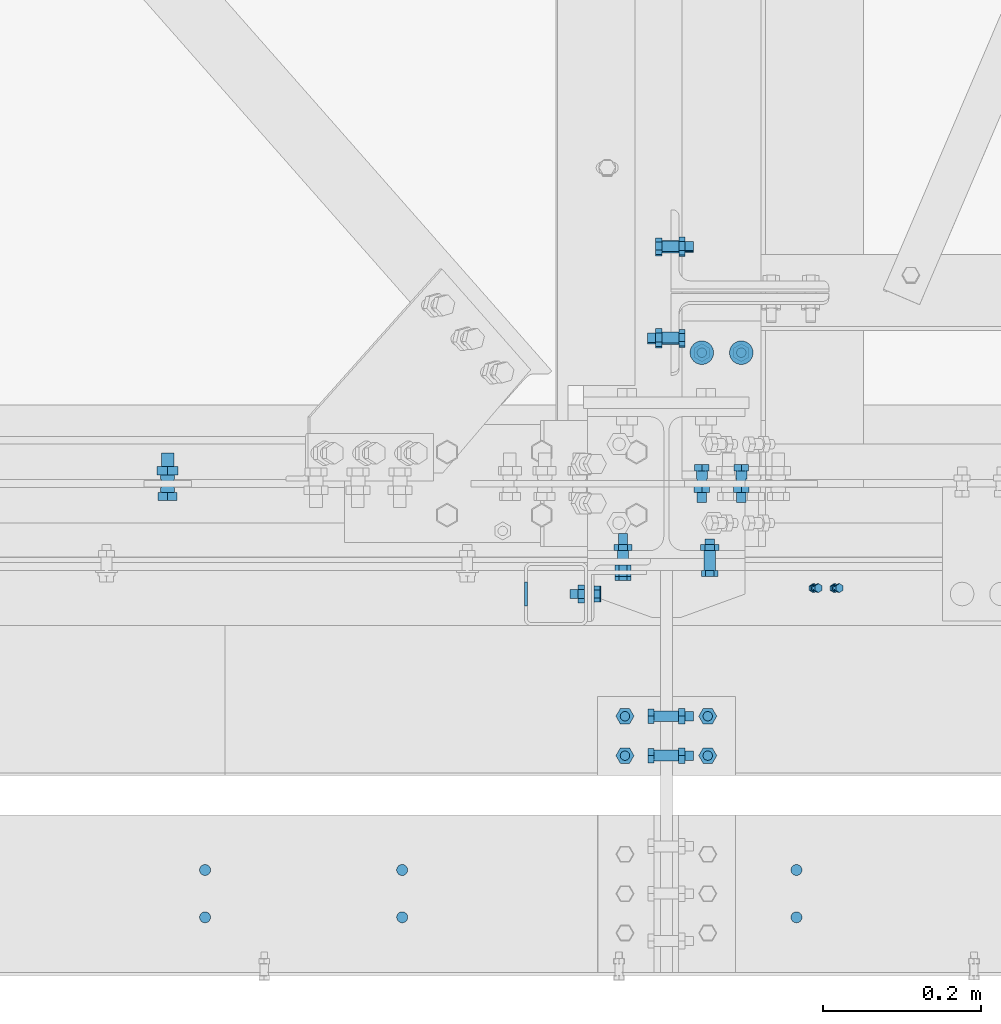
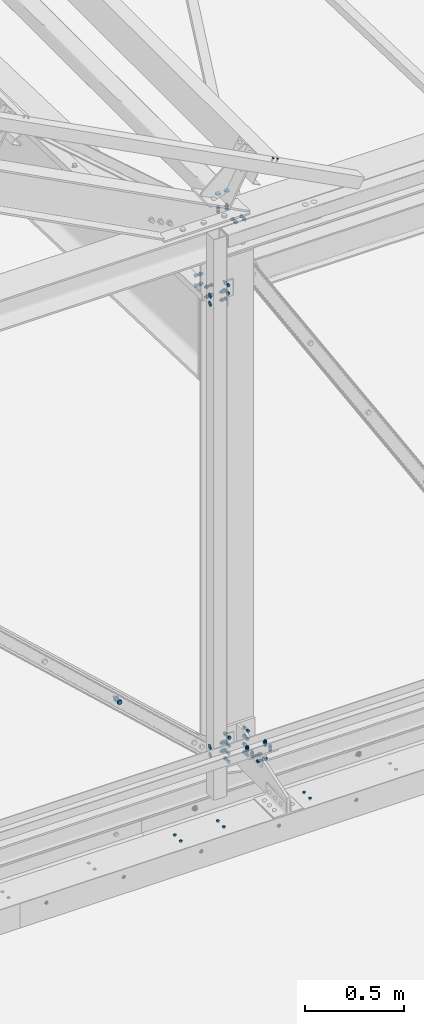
# One storey, part 257 of 362: 22 mechanical fasteners.
"""IFC2X3 building model written with IfcOpenShell, lengths in millimetres."""

from ifc_helpers import new_model, si_unit, frame, frame_2d, origin_with_axes, origin_2d_with_axis, place, context, subcontext, project, spatial, polyline, circle_curve, parameter, trimmed, segment, composite_curve, circle, outline, extrude, source, transform, mapped, material, type_object, element, save


model = new_model("IFC2X3")

# Units and contexts
model_context = context("Model", 3, precision=1e-05, world=origin_with_axes())
body_context = subcontext(model_context, "Body", "Model", "MODEL_VIEW")
ifc_project = project(units=[si_unit("LENGTHUNIT", "METRE", prefix="MILLI"), si_unit("AREAUNIT", "SQUARE_METRE"), si_unit("VOLUMEUNIT", "CUBIC_METRE"), si_unit("MASSUNIT", "GRAM", prefix="KILO"), si_unit("TIMEUNIT", "SECOND"), si_unit("PLANEANGLEUNIT", "RADIAN"), si_unit("SOLIDANGLEUNIT", "STERADIAN"), si_unit("THERMODYNAMICTEMPERATUREUNIT", "DEGREE_CELSIUS"), si_unit("LUMINOUSINTENSITYUNIT", "LUMEN")], contexts=[model_context])

# Site, building, storey
site_placement = place(None, origin_with_axes())
site = spatial("IfcSite", under=ifc_project, at=site_placement, Name="Undefined", CompositionType="ELEMENT")
building_placement = place(site_placement, origin_with_axes())
building = spatial("IfcBuilding", under=site, at=building_placement, Name="Undefined", CompositionType="ELEMENT")
storey_placement = place(building_placement, origin_with_axes())
storey = spatial("IfcBuildingStorey", under=building, at=storey_placement, Name="Undefined", CompositionType="ELEMENT", Elevation=0.0)

# Mechanical fasteners
ifc_material_1 = material(Name="8.8-SB-ZINGUE")
mechanical_fastener_type = type_object("IfcMechanicalFastenerType", Name="Bolt assembly")
shared_shape_1 = source(origin_with_axes(), body_context, "Body", "SweptSolid", [
    extrude(circle(Radius=7.0, at=origin_2d_with_axis()), frame((0.0, -8.5, 0.0), z_axis=(0.0, 1.0, 0.0), x_axis=(1.0, 0.0, 0.0)), (0.0, 0.0, 1.0), 8.6),
])
for number, where, z_axis, x_axis, name in (
    (1, (19714.9989211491, -490.0, 5229.99824538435), (-1.0, 0.0, 0.0), (0.0, -1.0, 0.0), "Bolt assembly"),
    (2, (19214.9989211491, -490.0, 5229.99824538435), (-1.0, 0.0, 0.0), (0.0, -1.0, 0.0), "Bolt assembly"),
    (3, (18964.9989211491, -490.0, 5229.99824538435), (-1.0, 0.0, 0.0), (0.0, -1.0, 0.0), "Bolt assembly"),
):
    element("IfcMechanicalFastener", number, at=place(storey_placement, frame(where, z_axis=z_axis, x_axis=x_axis)), inside=storey, type_object=mechanical_fastener_type, material=ifc_material_1, Name=name, NominalDiameter=12.0, NominalLength=8.5, context=body_context, shape_type="MappedRepresentation", body=[
        mapped(shared_shape_1, transform((0.0, 0.0, 0.0))),
        mapped(shared_shape_1, transform((60.0, 0.0, 0.0))),
    ])
shared_shape_2 = source(origin_with_axes(), body_context, "Body", "SweptSolid", [
    extrude(circle(Radius=7.0, at=origin_2d_with_axis()), frame((0.0, -7.5, 0.0), z_axis=(0.0, 1.0, 0.0), x_axis=(1.0, 0.0, 0.0)), (0.0, 0.0, 1.0), 15.0),
    extrude(circle(Radius=7.0, at=origin_2d_with_axis()), frame((0.0, -15.4, 0.0), z_axis=(0.0, 1.0, 0.0), x_axis=(1.0, 0.0, 0.0)), (0.0, 0.0, 1.0), 8.0),
    extrude(circle(Radius=7.0, at=origin_2d_with_axis()), frame((0.0, 7.39216762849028, 0.0), z_axis=(0.0, 1.0, 0.0), x_axis=(1.0, 0.0, 0.0)), (0.0, 0.0, 1.0), 8.1),
    extrude(outline(polyline([(10.39230484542, 0.0), (5.19615242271, 9.00000000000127), (-5.19615242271, 9.00000000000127), (-10.39230484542, 0.0), (-5.19615242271, -9.00000000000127), (5.19615242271, -9.00000000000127), (10.39230484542, 0.0)])), frame((0.0, -23.42, 0.0), z_axis=(0.0, 1.0, 0.0), x_axis=(1.0, 0.0, 0.0)), (0.0, 0.0, 1.0), 7.92),
    extrude(circle(Radius=6.0, at=origin_2d_with_axis()), frame((0.0, -15.5, 0.0), z_axis=(0.0, 1.0, 0.0), x_axis=(1.0, 0.0, 0.0)), (0.0, 0.0, 1.0), 50.0),
    extrude(outline(polyline([(11.5008173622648, 0.0), (5.7504086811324, 9.96000000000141), (-5.7504086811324, 9.96000000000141), (-11.5008173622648, 0.0), (-5.7504086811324, -9.96000000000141), (5.7504086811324, -9.96000000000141), (11.5008173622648, 0.0)])), frame((0.0, 15.4921676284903, 0.0), z_axis=(0.0, 1.0, 0.0), x_axis=(1.0, 0.0, 0.0)), (0.0, 0.0, 1.0), 7.92),
])
mechanical_fastener_1_placement = place(storey_placement, frame((19550.0, -320.0, 5394.99824538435), z_axis=(0.0, 1.0, 0.0), x_axis=(0.0, 0.0, 1.0)))
element("IfcMechanicalFastener", 4, at=mechanical_fastener_1_placement, inside=storey, type_object=mechanical_fastener_type, material=ifc_material_1, Name="Bolt assembly", NominalDiameter=12.0, NominalLength=50.0, context=body_context, shape_type="MappedRepresentation", body=[
    mapped(shared_shape_2, transform((0.0, 0.0, -25.0))),
    mapped(shared_shape_2, transform((0.0, 0.0, 25.0))),
])
shared_shape_3 = source(origin_with_axes(), body_context, "Body", "SweptSolid", [
    extrude(circle(Radius=7.0, at=origin_2d_with_axis()), frame((0.0, -0.100011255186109, 0.0), z_axis=(0.0, 1.0, 0.0), x_axis=(1.0, 0.0, 0.0)), (0.0, 0.0, 1.0), 4.1),
    extrude(circle(Radius=7.0, at=origin_2d_with_axis()), frame((0.0, -7.9, 0.0), z_axis=(0.0, 1.0, 0.0), x_axis=(1.0, 0.0, 0.0)), (0.0, 0.0, 1.0), 8.0),
    extrude(outline(polyline([(10.39230484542, 0.0), (5.19615242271, 9.00000000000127), (-5.19615242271, 9.00000000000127), (-10.39230484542, 0.0), (-5.19615242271, -9.00000000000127), (5.19615242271, -9.00000000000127), (10.39230484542, 0.0)])), frame((0.0, -15.92, 0.0), z_axis=(0.0, 1.0, 0.0), x_axis=(1.0, 0.0, 0.0)), (0.0, 0.0, 1.0), 7.92),
    extrude(circle(Radius=6.0, at=origin_2d_with_axis()), frame((0.0, -8.0, 0.0), z_axis=(0.0, 1.0, 0.0), x_axis=(1.0, 0.0, 0.0)), (0.0, 0.0, 1.0), 30.0),
    extrude(outline(polyline([(11.5008173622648, 0.0), (5.7504086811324, 9.96000000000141), (-5.7504086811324, 9.96000000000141), (-11.5008173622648, 0.0), (-5.7504086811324, -9.96000000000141), (5.7504086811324, -9.96000000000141), (11.5008173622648, 0.0)])), frame((0.0, 4.00000005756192, 0.0), z_axis=(0.0, 1.0, 0.0), x_axis=(1.0, 0.0, 0.0)), (0.0, 0.0, 1.0), 7.92),
])
for number, where, z_axis, x_axis, name in (
    (5, (19602.4921676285, -320.0, 5449.99824532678), (0.0, 1.0, 0.0), (-1.0, 0.0, 0.0), "Bolt assembly"),
    (6, (19497.5, -320.0, 5449.99824532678), (0.0, -1.0, 0.0), (1.0, 0.0, 0.0), "Bolt assembly"),
    (7, (19449.9999999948, -139.999999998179, 8160.00066229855), (0.0, 0.0, 1.0), (0.0, 1.0, 0.0), "Bolt assembly"),
):
    element("IfcMechanicalFastener", number, at=place(storey_placement, frame(where, z_axis=z_axis, x_axis=x_axis)), inside=storey, type_object=mechanical_fastener_type, material=ifc_material_1, Name=name, NominalDiameter=12.0, NominalLength=30.0, context=body_context, shape_type="MappedRepresentation", body=[
        mapped(shared_shape_3, transform((0.0, 0.0, -25.0))),
        mapped(shared_shape_3, transform((0.0, 0.0, 25.0))),
    ])
shared_shape_4 = source(origin_with_axes(), body_context, "Body", "SweptSolid", [
    extrude(circle(Radius=7.0, at=origin_2d_with_axis()), frame((0.0, 4.89855588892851, 0.0), z_axis=(0.0, 1.0, 0.0), x_axis=(1.0, 0.0, 0.0)), (0.0, 0.0, 1.0), 10.1),
    extrude(circle(Radius=7.0, at=origin_2d_with_axis()), frame((0.0, -9.90144411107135, 0.0), z_axis=(0.0, 1.0, 0.0), x_axis=(1.0, 0.0, 0.0)), (0.0, 0.0, 1.0), 15.0),
    extrude(outline(polyline([(10.39230484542, 0.0), (5.19615242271, 9.00000000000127), (-5.19615242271, 9.00000000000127), (-10.39230484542, 0.0), (-5.19615242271, -9.00000000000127), (5.19615242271, -9.00000000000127), (10.39230484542, 0.0)])), frame((0.0, -17.9214441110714, 0.0), z_axis=(0.0, 1.0, 0.0), x_axis=(1.0, 0.0, 0.0)), (0.0, 0.0, 1.0), 7.92),
    extrude(circle(Radius=6.0, at=origin_2d_with_axis()), frame((0.0, -10.0014441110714, 0.0), z_axis=(0.0, 1.0, 0.0), x_axis=(1.0, 0.0, 0.0)), (0.0, 0.0, 1.0), 40.0),
    extrude(outline(polyline([(11.5008173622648, 0.0), (5.7504086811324, 9.96000000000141), (-5.7504086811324, 9.96000000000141), (-11.5008173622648, 0.0), (-5.7504086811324, -9.96000000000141), (5.7504086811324, -9.96000000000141), (11.5008173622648, 0.0)])), frame((0.0, 14.9985558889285, 0.0), z_axis=(0.0, 1.0, 0.0), x_axis=(1.0, 0.0, 0.0)), (0.0, 0.0, 1.0), 7.92),
])
mechanical_fastener_2_placement = place(storey_placement, frame((19604.9999023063, -99.9985558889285, 5290.00066228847), z_axis=(0.0, 0.0, 1.0), x_axis=(1.0, 0.0, 0.0)))
element("IfcMechanicalFastener", 8, at=mechanical_fastener_2_placement, inside=storey, type_object=mechanical_fastener_type, material=ifc_material_1, Name="Bolt assembly", NominalDiameter=12.0, NominalLength=40.0, context=body_context, shape_type="MappedRepresentation", body=[
    mapped(shared_shape_4, transform((0.0, 0.0, 25.0))),
    mapped(shared_shape_4, transform((0.0, 0.0, -25.0))),
])
mechanical_fastener_3_placement = place(storey_placement, frame((19495.0012970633, -99.9985558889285, 5290.00066228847), z_axis=(0.0, 0.0, -1.0), x_axis=(-1.0, 0.0, 0.0)))
element("IfcMechanicalFastener", 9, at=mechanical_fastener_3_placement, inside=storey, type_object=mechanical_fastener_type, material=ifc_material_1, Name="Bolt assembly", NominalDiameter=12.0, NominalLength=40.0, context=body_context, shape_type="MappedRepresentation", body=[
    mapped(shared_shape_4, transform((0.0, 0.0, -25.0))),
    mapped(shared_shape_4, transform((0.0, 0.0, 25.0))),
])
shared_shape_5 = source(origin_with_axes(), body_context, "Body", "SweptSolid", [
    extrude(circle(Radius=7.0, at=origin_2d_with_axis()), frame((0.0, -0.100011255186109, 0.0), z_axis=(0.0, 1.0, 0.0), x_axis=(1.0, 0.0, 0.0)), (0.0, 0.0, 1.0), 10.1),
    extrude(circle(Radius=7.0, at=origin_2d_with_axis()), frame((0.0, -14.899999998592, 0.0), z_axis=(0.0, 1.0, 0.0), x_axis=(1.0, 0.0, 0.0)), (0.0, 0.0, 1.0), 15.0),
    extrude(outline(polyline([(10.39230484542, 0.0), (5.19615242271, 9.00000000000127), (-5.19615242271, 9.00000000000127), (-10.39230484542, 0.0), (-5.19615242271, -9.00000000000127), (5.19615242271, -9.00000000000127), (10.39230484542, 0.0)])), frame((0.0, -22.919999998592, 0.0), z_axis=(0.0, 1.0, 0.0), x_axis=(1.0, 0.0, 0.0)), (0.0, 0.0, 1.0), 7.92),
    extrude(circle(Radius=6.0, at=origin_2d_with_axis()), frame((0.0, -14.999999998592, 0.0), z_axis=(0.0, 1.0, 0.0), x_axis=(1.0, 0.0, 0.0)), (0.0, 0.0, 1.0), 40.0),
    extrude(outline(polyline([(11.5008173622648, 0.0), (5.7504086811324, 9.96000000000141), (-5.7504086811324, 9.96000000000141), (-11.5008173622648, 0.0), (-5.7504086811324, -9.96000000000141), (5.7504086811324, -9.96000000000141), (11.5008173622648, 0.0)])), frame((0.0, 10.0000000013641, 0.0), z_axis=(0.0, 1.0, 0.0), x_axis=(1.0, 0.0, 0.0)), (0.0, 0.0, 1.0), 7.92),
])
mechanical_fastener_4_placement = place(storey_placement, frame((19604.9999023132, -95.0000000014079, 5390.00066228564), z_axis=(0.0, 0.0, 1.0), x_axis=(1.0, 0.0, 0.0)))
element("IfcMechanicalFastener", 10, at=mechanical_fastener_4_placement, inside=storey, type_object=mechanical_fastener_type, material=ifc_material_1, Name="Bolt assembly", NominalDiameter=12.0, NominalLength=40.0, context=body_context, shape_type="MappedRepresentation", body=[
    mapped(shared_shape_5, transform((0.0, 0.0, 25.0))),
    mapped(shared_shape_5, transform((0.0, 0.0, -25.0))),
])
shared_shape_6 = source(origin_with_axes(), body_context, "Body", "SweptSolid", [
    extrude(circle(Radius=7.0, at=origin_2d_with_axis()), frame((0.0, -0.100011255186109, 0.0), z_axis=(0.0, 1.0, 0.0), x_axis=(1.0, 0.0, 0.0)), (0.0, 0.0, 1.0), 10.1),
    extrude(circle(Radius=7.0, at=origin_2d_with_axis()), frame((0.0, -14.999999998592, 0.0), z_axis=(0.0, 1.0, 0.0), x_axis=(1.0, 0.0, 0.0)), (0.0, 0.0, 1.0), 15.0),
    extrude(circle(Radius=7.0, at=origin_2d_with_axis()), frame((0.0, -19.900541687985, 0.0), z_axis=(0.0, 1.0, 0.0), x_axis=(1.0, 0.0, 0.0)), (0.0, 0.0, 1.0), 5.0),
    extrude(outline(polyline([(10.39230484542, 0.0), (5.19615242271, 9.00000000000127), (-5.19615242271, 9.00000000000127), (-10.39230484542, 0.0), (-5.19615242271, -9.00000000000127), (5.19615242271, -9.00000000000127), (10.39230484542, 0.0)])), frame((0.0, -27.920541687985, 0.0), z_axis=(0.0, 1.0, 0.0), x_axis=(1.0, 0.0, 0.0)), (0.0, 0.0, 1.0), 7.92),
    extrude(circle(Radius=6.0, at=origin_2d_with_axis()), frame((0.0, -20.000541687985, 0.0), z_axis=(0.0, 1.0, 0.0), x_axis=(1.0, 0.0, 0.0)), (0.0, 0.0, 1.0), 50.0),
    extrude(outline(polyline([(11.5008173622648, 0.0), (5.7504086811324, 9.96000000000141), (-5.7504086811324, 9.96000000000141), (-11.5008173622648, 0.0), (-5.7504086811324, -9.96000000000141), (5.7504086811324, -9.96000000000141), (11.5008173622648, 0.0)])), frame((0.0, 10.0000000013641, 0.0), z_axis=(0.0, 1.0, 0.0), x_axis=(1.0, 0.0, 0.0)), (0.0, 0.0, 1.0), 7.92),
])
mechanical_fastener_5_placement = place(storey_placement, frame((19495.0012970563, -95.0000000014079, 5390.00066228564), z_axis=(0.0, 0.0, -1.0), x_axis=(-1.0, 0.0, 0.0)))
element("IfcMechanicalFastener", 11, at=mechanical_fastener_5_placement, inside=storey, type_object=mechanical_fastener_type, material=ifc_material_1, Name="Bolt assembly", NominalDiameter=12.0, NominalLength=50.0, context=body_context, shape_type="MappedRepresentation", body=[
    mapped(shared_shape_6, transform((0.0, 0.0, -25.0))),
    mapped(shared_shape_6, transform((0.0, 0.0, 25.0))),
])
shared_shape_7 = source(origin_with_axes(), body_context, "Body", "SweptSolid", [
    extrude(circle(Radius=7.0, at=origin_2d_with_axis()), frame((0.0, -0.0987029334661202, 0.0), z_axis=(0.0, 1.0, 0.0), x_axis=(1.0, 0.0, 0.0)), (0.0, 0.0, 1.0), 4.1),
    extrude(outline(composite_curve([segment(polyline([(-5.5, 7.0), (5.5, 7.0)]), True, "CONTINUOUS"), segment(trimmed(circle_curve(frame_2d((5.5, 0.0), x_axis=(0.0, 1.0)), 7.0), [parameter(0.0)], [parameter(3.14159265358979)], False, "PARAMETER"), True, "CONTINUOUS"), segment(polyline([(5.5, -7.0), (-5.5, -7.0)]), True, "CONTINUOUS"), segment(trimmed(circle_curve(frame_2d((-5.5, 0.0), x_axis=(0.0, -1.0)), 7.0), [parameter(0.0)], [parameter(3.14159265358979)], False, "PARAMETER"), True, "DISCONTINUOUS")], self_intersect=False)), frame((0.0, -4.90000000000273, 0.0), z_axis=(0.0, 1.0, 0.0), x_axis=(1.0, 0.0, 0.0)), (0.0, 0.0, 1.0), 5.0),
    extrude(outline(polyline([(10.39230484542, 0.0), (5.19615242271, 9.00000000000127), (-5.19615242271, 9.00000000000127), (-10.39230484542, 0.0), (-5.19615242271, -9.00000000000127), (5.19615242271, -9.00000000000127), (10.39230484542, 0.0)])), frame((0.0, -16.8799999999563, 0.0), z_axis=(0.0, 1.0, 0.0), x_axis=(1.0, 0.0, 0.0)), (0.0, 0.0, 1.0), 7.92),
    extrude(circle(Radius=6.0, at=origin_2d_with_axis()), frame((0.0, -8.95999999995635, 0.0), z_axis=(0.0, 1.0, 0.0), x_axis=(1.0, 0.0, 0.0)), (0.0, 0.0, 1.0), 30.0),
    extrude(circle(Radius=10.8, at=origin_2d_with_axis()), frame((0.0, -8.95999999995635, 0.0), z_axis=(0.0, 1.0, 0.0), x_axis=(1.0, 0.0, 0.0)), (0.0, 0.0, 1.0), 3.96),
    extrude(outline(polyline([(11.5008173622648, 0.0), (5.7504086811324, 9.96000000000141), (-5.7504086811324, 9.96000000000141), (-11.5008173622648, 0.0), (-5.7504086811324, -9.96000000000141), (5.7504086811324, -9.96000000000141), (11.5008173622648, 0.0)])), frame((0.0, 4.00129706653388, 0.0), z_axis=(0.0, 1.0, 0.0), x_axis=(1.0, 0.0, 0.0)), (0.0, 0.0, 1.0), 7.92),
])
mechanical_fastener_6_placement = place(storey_placement, frame((19450.0012970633, -140.000000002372, 5390.00066228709), z_axis=(0.0, 0.0, 1.0), x_axis=(0.0, 1.0, 0.0)))
element("IfcMechanicalFastener", 12, at=mechanical_fastener_6_placement, inside=storey, type_object=mechanical_fastener_type, material=ifc_material_1, Name="Bolt assembly", NominalDiameter=12.0, NominalLength=30.0, context=body_context, shape_type="MappedRepresentation", body=[
    mapped(shared_shape_7, transform((0.0, 0.0, -25.0))),
    mapped(shared_shape_7, transform((0.0, 0.0, 25.0))),
])
ifc_material_2 = material(Name="6.8")
shared_shape_8 = source(origin_with_axes(), body_context, "Body", "SweptSolid", [
    extrude(circle(Radius=15.0, at=origin_2d_with_axis()), frame((0.0, 0.0, 0.0), z_axis=(0.0, 1.0, 0.0), x_axis=(1.0, 0.0, 0.0)), (0.0, 0.0, 1.0), 4.1),
])
mechanical_fastener_7_placement = place(storey_placement, frame((19619.9999986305, 166.0, 8550.0), z_axis=(1.0, 0.0, 0.0), x_axis=(0.0, -1.0, 0.0)))
element("IfcMechanicalFastener", 13, at=mechanical_fastener_7_placement, inside=storey, type_object=mechanical_fastener_type, material=ifc_material_2, Name="Bolt assembly", NominalDiameter=30.0, NominalLength=4.0, context=body_context, shape_type="MappedRepresentation", body=[
    mapped(shared_shape_8, transform((0.0, 0.0, -25.0))),
    mapped(shared_shape_8, transform((0.0, 0.0, 25.0))),
])
shared_shape_9 = source(origin_with_axes(), body_context, "Body", "SweptSolid", [
    extrude(circle(Radius=15.0, at=origin_2d_with_axis()), frame((0.0, -3.99999923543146, 0.0), z_axis=(0.0, 1.0, 0.0), x_axis=(1.0, 0.0, 0.0)), (0.0, 0.0, 1.0), 4.1),
])
for number, where, z_axis, x_axis, name in (
    (14, (19369.9999999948, -139.999999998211, 8160.0006622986), (0.0, 0.0, 1.0), (0.0, 1.0, 0.0), "Bolt assembly"),
    (15, (19369.9999999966, -139.999999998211, 5390.0006622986), (0.0, 0.0, 1.0), (0.0, 1.0, 0.0), "Bolt assembly"),
):
    element("IfcMechanicalFastener", number, at=place(storey_placement, frame(where, z_axis=z_axis, x_axis=x_axis)), inside=storey, type_object=mechanical_fastener_type, material=ifc_material_2, Name=name, NominalDiameter=30.0, NominalLength=4.0, context=body_context, shape_type="MappedRepresentation", body=[
        mapped(shared_shape_9, transform((0.0, 0.0, -25.0))),
        mapped(shared_shape_9, transform((0.0, 0.0, 25.0))),
    ])
shared_shape_10 = source(origin_with_axes(), body_context, "Body", "SweptSolid", [
    extrude(circle(Radius=7.0, at=origin_2d_with_axis()), frame((0.0, -0.100011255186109, 0.0), z_axis=(0.0, 1.0, 0.0), x_axis=(1.0, 0.0, 0.0)), (0.0, 0.0, 1.0), 10.1),
    extrude(circle(Radius=7.0, at=origin_2d_with_axis()), frame((0.0, -7.9, 0.0), z_axis=(0.0, 1.0, 0.0), x_axis=(1.0, 0.0, 0.0)), (0.0, 0.0, 1.0), 8.0),
    extrude(outline(polyline([(10.39230484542, 0.0), (5.19615242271, 9.00000000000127), (-5.19615242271, 9.00000000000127), (-10.39230484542, 0.0), (-5.19615242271, -9.00000000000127), (5.19615242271, -9.00000000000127), (10.39230484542, 0.0)])), frame((0.0, -15.92, 0.0), z_axis=(0.0, 1.0, 0.0), x_axis=(1.0, 0.0, 0.0)), (0.0, 0.0, 1.0), 7.92),
    extrude(circle(Radius=6.0, at=origin_2d_with_axis()), frame((0.0, -8.0, 0.0), z_axis=(0.0, 1.0, 0.0), x_axis=(1.0, 0.0, 0.0)), (0.0, 0.0, 1.0), 40.0),
    extrude(outline(polyline([(11.5008173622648, 0.0), (5.7504086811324, 9.96000000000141), (-5.7504086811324, 9.96000000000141), (-11.5008173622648, 0.0), (-5.7504086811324, -9.96000000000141), (5.7504086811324, -9.96000000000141), (11.5008173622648, 0.0)])), frame((0.0, 10.0000000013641, 0.0), z_axis=(0.0, 1.0, 0.0), x_axis=(1.0, 0.0, 0.0)), (0.0, 0.0, 1.0), 7.92),
])
mechanical_fastener_8_placement = place(storey_placement, frame((19494.9999999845, -94.9999999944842, 8160.00066229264), z_axis=(0.0, 0.0, -1.0), x_axis=(-1.0, 0.0, 0.0)))
element("IfcMechanicalFastener", 16, at=mechanical_fastener_8_placement, inside=storey, type_object=mechanical_fastener_type, material=ifc_material_1, Name="Bolt assembly", NominalDiameter=12.0, NominalLength=40.0, context=body_context, shape_type="MappedRepresentation", body=[
    mapped(shared_shape_10, transform((0.0, 0.0, -25.0))),
    mapped(shared_shape_10, transform((0.0, 0.0, 25.0))),
])
shared_shape_11 = source(origin_with_axes(), body_context, "Body", "SweptSolid", [
    extrude(circle(Radius=9.0, at=origin_2d_with_axis()), frame((0.0, -10.9000000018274, 0.0), z_axis=(0.0, 1.0, 0.0), x_axis=(1.0, 0.0, 0.0)), (0.0, 0.0, 1.0), 6.0),
    extrude(circle(Radius=9.0, at=origin_2d_with_axis()), frame((0.0, 4.9000000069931, 0.0), z_axis=(0.0, 1.0, 0.0), x_axis=(1.0, 0.0, 0.0)), (0.0, 0.0, 1.0), 6.1),
    extrude(circle(Radius=9.0, at=origin_2d_with_axis()), frame((0.0, -3.99999923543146, 0.0), z_axis=(0.0, 1.0, 0.0), x_axis=(1.0, 0.0, 0.0)), (0.0, 0.0, 1.0), 8.0),
    extrude(outline(polyline([(13.85640646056, 0.0), (6.92820323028, 12.0000000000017), (-6.92820323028, 12.0000000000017), (-13.85640646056, 0.0), (-6.92820323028, -12.0000000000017), (6.92820323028, -12.0000000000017), (13.85640646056, 0.0)])), frame((0.0, -21.5600000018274, 0.0), z_axis=(0.0, 1.0, 0.0), x_axis=(1.0, 0.0, 0.0)), (0.0, 0.0, 1.0), 10.56),
    extrude(circle(Radius=8.0, at=origin_2d_with_axis()), frame((0.0, -11.0000000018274, 0.0), z_axis=(0.0, 1.0, 0.0), x_axis=(1.0, 0.0, 0.0)), (0.0, 0.0, 1.0), 50.0),
    extrude(outline(polyline([(15.3344231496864, 0.0), (7.6672115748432, 13.2800000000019), (-7.6672115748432, 13.2800000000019), (-15.3344231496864, 0.0), (-7.6672115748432, -13.2800000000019), (7.6672115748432, -13.2800000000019), (15.3344231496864, 0.0)])), frame((0.0, 11.0000000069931, 0.0), z_axis=(0.0, 1.0, 0.0), x_axis=(1.0, 0.0, 0.0)), (0.0, 0.0, 1.0), 10.56),
])
mechanical_fastener_9_placement = place(storey_placement, frame((18917.5577549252, 0.0, 5773.65162689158), z_axis=(1.0, 0.0, 0.0), x_axis=(0.0, 0.0, -1.0)))
element("IfcMechanicalFastener", 17, at=mechanical_fastener_9_placement, inside=storey, type_object=mechanical_fastener_type, material=ifc_material_1, Name="Bolt assembly", NominalDiameter=16.0, NominalLength=50.0, context=body_context, shape_type="MappedRepresentation", body=[
    mapped(shared_shape_11, transform((0.0, 0.0, 0.0))),
])
shared_shape_12 = source(origin_with_axes(), body_context, "Body", "SweptSolid", [
    extrude(circle(Radius=4.0, at=origin_2d_with_axis()), frame((0.0, 0.0, 0.0), z_axis=(0.0, 1.0, 0.0), x_axis=(1.0, 0.0, 0.0)), (0.0, 0.0, 1.0), 7.1),
    extrude(outline(polyline([(5.7735026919, 0.0), (2.88675134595, 5.00000000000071), (-2.88675134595, 5.00000000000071), (-5.7735026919, 0.0), (-2.88675134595, -5.00000000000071), (2.88675134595, -5.00000000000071), (5.7735026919, 0.0)])), frame((0.0, -3.99999923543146, 0.0), z_axis=(0.0, 1.0, 0.0), x_axis=(1.0, 0.0, 0.0)), (0.0, 0.0, 1.0), 4.0),
    extrude(circle(Radius=3.0, at=origin_2d_with_axis()), frame((0.0, 0.0, 0.0), z_axis=(0.0, 1.0, 0.0), x_axis=(1.0, 0.0, 0.0)), (0.0, 0.0, 1.0), 16.0),
    extrude(outline(polyline([(5.7735026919, 0.0), (2.88675134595, 5.00000000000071), (-2.88675134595, 5.00000000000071), (-5.7735026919, 0.0), (-2.88675134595, -5.00000000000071), (2.88675134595, -5.00000000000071), (5.7735026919, 0.0)])), frame((0.0, 7.0, 0.0), z_axis=(0.0, 1.0, 0.0), x_axis=(1.0, 0.0, 0.0)), (0.0, 0.0, 1.0), 5.2),
])
mechanical_fastener_10_placement = place(storey_placement, frame((19754.5101943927, -132.499920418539, 8886.11687705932), z_axis=(-0.886082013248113, 9.38091927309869e-07, 0.463528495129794), x_axis=(0.0, 1.0, 0.0)))
element("IfcMechanicalFastener", 18, at=mechanical_fastener_10_placement, inside=storey, type_object=mechanical_fastener_type, material=ifc_material_2, Name="Bolt assembly", NominalDiameter=6.0, NominalLength=16.0, context=body_context, shape_type="MappedRepresentation", body=[
    mapped(shared_shape_12, transform((0.0, 0.0, -15.0))),
    mapped(shared_shape_12, transform((0.0, -3.63797880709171e-12, 15.0000000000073))),
])
shared_shape_13 = source(origin_with_axes(), body_context, "Body", "SweptSolid", [
    extrude(circle(Radius=7.0, at=origin_2d_with_axis()), frame((0.0, 2.65, 0.0), z_axis=(0.0, 1.0, 0.0), x_axis=(1.0, 0.0, 0.0)), (0.0, 0.0, 1.0), 6.6),
    extrude(circle(Radius=7.0, at=origin_2d_with_axis()), frame((0.0, -9.9, 0.0), z_axis=(0.0, 1.0, 0.0), x_axis=(1.0, 0.0, 0.0)), (0.0, 0.0, 1.0), 10.0),
    extrude(outline(polyline([(10.39230484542, 0.0), (5.19615242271, 9.00000000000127), (-5.19615242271, 9.00000000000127), (-10.39230484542, 0.0), (-5.19615242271, -9.00000000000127), (5.19615242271, -9.00000000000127), (10.39230484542, 0.0)])), frame((0.0, -17.92, 0.0), z_axis=(0.0, 1.0, 0.0), x_axis=(1.0, 0.0, 0.0)), (0.0, 0.0, 1.0), 7.92),
    extrude(circle(Radius=6.0, at=origin_2d_with_axis()), frame((0.0, -10.0000010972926, 0.0), z_axis=(0.0, 1.0, 0.0), x_axis=(1.0, 0.0, 0.0)), (0.0, 0.0, 1.0), 40.0),
    extrude(outline(polyline([(11.5008173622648, 0.0), (5.7504086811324, 9.96000000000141), (-5.7504086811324, 9.96000000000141), (-11.5008173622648, 0.0), (-5.7504086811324, -9.96000000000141), (5.7504086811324, -9.96000000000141), (11.5008173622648, 0.0)])), frame((0.0, 9.25, 0.0), z_axis=(0.0, 1.0, 0.0), x_axis=(1.0, 0.0, 0.0)), (0.0, 0.0, 1.0), 7.92),
])
mechanical_fastener_11_placement = place(storey_placement, frame((19619.9999986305, 6.0, 8480.0), z_axis=(-1.0, 0.0, 0.0), x_axis=(0.0, 0.0, -1.0)))
element("IfcMechanicalFastener", 19, at=mechanical_fastener_11_placement, inside=storey, type_object=mechanical_fastener_type, material=ifc_material_1, Name="Bolt assembly", NominalDiameter=12.0, NominalLength=40.0, context=body_context, shape_type="MappedRepresentation", body=[
    mapped(shared_shape_13, transform((0.0, 0.0, 25.0))),
    mapped(shared_shape_13, transform((0.0, 0.0, -25.0))),
])
shared_shape_14 = source(origin_with_axes(), body_context, "Body", "SweptSolid", [
    extrude(circle(Radius=7.0, at=origin_2d_with_axis()), frame((0.0, 9.9, 0.0), z_axis=(0.0, 1.0, 0.0), x_axis=(1.0, 0.0, 0.0)), (0.0, 0.0, 1.0), 4.1),
    extrude(circle(Radius=7.0, at=origin_2d_with_axis()), frame((0.0, 0.1, 0.0), z_axis=(0.0, 1.0, 0.0), x_axis=(1.0, 0.0, 0.0)), (0.0, 0.0, 1.0), 10.0),
    extrude(outline(polyline([(10.39230484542, 0.0), (5.19615242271, 9.00000000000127), (-5.19615242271, 9.00000000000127), (-10.39230484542, 0.0), (-5.19615242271, -9.00000000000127), (5.19615242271, -9.00000000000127), (10.39230484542, 0.0)])), frame((0.0, -7.91999999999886, 0.0), z_axis=(0.0, 1.0, 0.0), x_axis=(1.0, 0.0, 0.0)), (0.0, 0.0, 1.0), 7.92),
    extrude(circle(Radius=6.0, at=origin_2d_with_axis()), frame((0.0, 0.0, 0.0), z_axis=(0.0, 1.0, 0.0), x_axis=(1.0, 0.0, 0.0)), (0.0, 0.0, 1.0), 30.0),
    extrude(outline(polyline([(11.5008173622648, 0.0), (5.7504086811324, 9.96000000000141), (-5.7504086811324, 9.96000000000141), (-11.5008173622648, 0.0), (-5.7504086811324, -9.96000000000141), (5.7504086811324, -9.96000000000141), (11.5008173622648, 0.0)])), frame((0.0, 13.9999928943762, 0.0), z_axis=(0.0, 1.0, 0.0), x_axis=(1.0, 0.0, 0.0)), (0.0, 0.0, 1.0), 7.92),
])
mechanical_fastener_12_placement = place(storey_placement, frame((19619.9999986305, 166.0, 8440.0), z_axis=(-1.0, 0.0, 0.0), x_axis=(0.0, -1.0, 0.0)))
element("IfcMechanicalFastener", 20, at=mechanical_fastener_12_placement, inside=storey, type_object=mechanical_fastener_type, material=ifc_material_1, Name="Bolt assembly", NominalDiameter=12.0, NominalLength=30.0, context=body_context, shape_type="MappedRepresentation", body=[
    mapped(shared_shape_14, transform((0.0, 0.0, 25.0))),
    mapped(shared_shape_14, transform((0.0, 0.0, -25.0))),
])
shared_shape_15 = source(origin_with_axes(), body_context, "Body", "SweptSolid", [
    extrude(circle(Radius=7.0, at=origin_2d_with_axis()), frame((0.0, -5.45000018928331, 0.0), z_axis=(0.0, 1.0, 0.0), x_axis=(1.0, 0.0, 0.0)), (0.0, 0.0, 1.0), 11.1),
    extrude(circle(Radius=7.0, at=origin_2d_with_axis()), frame((0.0, 5.90002706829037, 0.0), z_axis=(0.0, 1.0, 0.0), x_axis=(1.0, 0.0, 0.0)), (0.0, 0.0, 1.0), 10.1),
    extrude(outline(polyline([(10.39230484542, 0.0), (5.19615242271, 9.00000000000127), (-5.19615242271, 9.00000000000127), (-10.39230484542, 0.0), (-5.19615242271, -9.00000000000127), (5.19615242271, -9.00000000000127), (10.39230484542, 0.0)])), frame((0.0, -13.4700001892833, 0.0), z_axis=(0.0, 1.0, 0.0), x_axis=(1.0, 0.0, 0.0)), (0.0, 0.0, 1.0), 7.92),
    extrude(circle(Radius=6.0, at=origin_2d_with_axis()), frame((0.0, -5.55000018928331, 0.0), z_axis=(0.0, 1.0, 0.0), x_axis=(1.0, 0.0, 0.0)), (0.0, 0.0, 1.0), 40.0),
    extrude(outline(polyline([(11.5008173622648, 0.0), (5.7504086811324, 9.96000000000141), (-5.7504086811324, 9.96000000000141), (-11.5008173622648, 0.0), (-5.7504086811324, -9.96000000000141), (5.7504086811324, -9.96000000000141), (11.5008173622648, 0.0)])), frame((0.0, 15.9999999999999, 0.0), z_axis=(0.0, 1.0, 0.0), x_axis=(1.0, 0.0, 0.0)), (0.0, 0.0, 1.0), 7.92),
])
mechanical_fastener_13_placement = place(storey_placement, frame((19550.0, 300.15083469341, 7950.52308564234), z_axis=(7.58071938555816e-11, 0.0314107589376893, 0.999506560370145), x_axis=(0.0, -0.999506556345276, 0.031410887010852)))
element("IfcMechanicalFastener", 21, at=mechanical_fastener_13_placement, inside=storey, type_object=mechanical_fastener_type, material=ifc_material_1, Name="Bolt assembly", NominalDiameter=12.0, NominalLength=40.0, context=body_context, shape_type="MappedRepresentation", body=[
    mapped(shared_shape_15, transform((0.0, 0.0, -30.0))),
    mapped(shared_shape_15, transform((0.0, 0.0, 30.0))),
])
shared_shape_16 = source(origin_with_axes(), body_context, "Body", "SweptSolid", [
    extrude(circle(Radius=7.0, at=origin_2d_with_axis()), frame((0.0, -5.65000019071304, 0.0), z_axis=(0.0, 1.0, 0.0), x_axis=(1.0, 0.0, 0.0)), (0.0, 0.0, 1.0), 11.2),
    extrude(circle(Radius=7.0, at=origin_2d_with_axis()), frame((0.0, -15.9000004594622, 0.0), z_axis=(0.0, 1.0, 0.0), x_axis=(1.0, 0.0, 0.0)), (0.0, 0.0, 1.0), 10.0),
    extrude(outline(polyline([(10.39230484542, 0.0), (5.19615242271, 9.00000000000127), (-5.19615242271, 9.00000000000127), (-10.39230484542, 0.0), (-5.19615242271, -9.00000000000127), (5.19615242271, -9.00000000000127), (10.39230484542, 0.0)])), frame((0.0, -23.9200004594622, 0.0), z_axis=(0.0, 1.0, 0.0), x_axis=(1.0, 0.0, 0.0)), (0.0, 0.0, 1.0), 7.92),
    extrude(circle(Radius=6.0, at=origin_2d_with_axis()), frame((0.0, -16.0000004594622, 0.0), z_axis=(0.0, 1.0, 0.0), x_axis=(1.0, 0.0, 0.0)), (0.0, 0.0, 1.0), 40.0),
    extrude(outline(polyline([(11.5008173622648, 0.0), (5.7504086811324, 9.96000000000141), (-5.7504086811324, 9.96000000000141), (-11.5008173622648, 0.0), (-5.7504086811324, -9.96000000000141), (5.7504086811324, -9.96000000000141), (11.5008173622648, 0.0)])), frame((0.0, 5.55000018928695, 0.0), z_axis=(0.0, 1.0, 0.0), x_axis=(1.0, 0.0, 0.0)), (0.0, 0.0, 1.0), 7.92),
])
mechanical_fastener_14_placement = place(storey_placement, frame((19550.0, 184.207213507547, 7954.16681401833), z_axis=(7.58071938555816e-11, 0.0314107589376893, 0.999506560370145), x_axis=(3.14103090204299e-11, 0.999506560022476, -0.0314107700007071)))
element("IfcMechanicalFastener", 22, at=mechanical_fastener_14_placement, inside=storey, type_object=mechanical_fastener_type, material=ifc_material_1, Name="Bolt assembly", NominalDiameter=12.0, NominalLength=40.0, context=body_context, shape_type="MappedRepresentation", body=[
    mapped(shared_shape_16, transform((0.0, 0.0, -30.0))),
    mapped(shared_shape_16, transform((0.0, 0.0, 30.0))),
])

save(model, "model.ifc")
